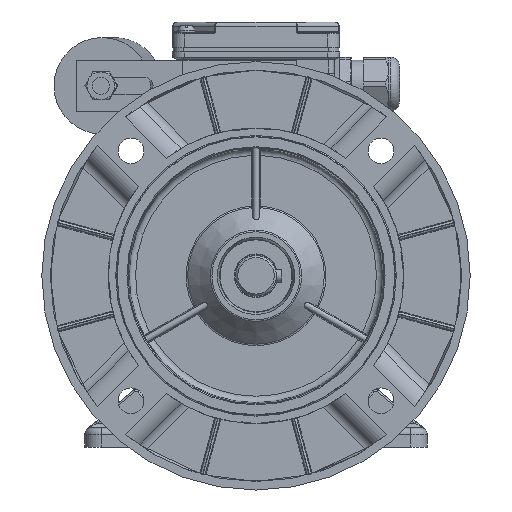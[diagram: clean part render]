
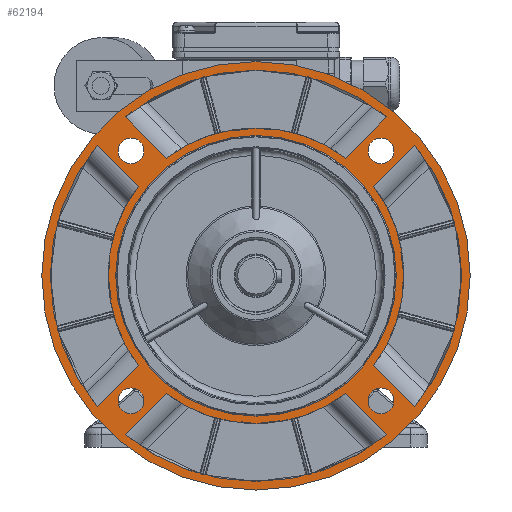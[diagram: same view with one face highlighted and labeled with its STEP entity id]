
A CAD part, left-side view. The second image highlights one B-rep face of the part: STEP entity #62194.
In plain terms, the highlighted planar face has unit normal (-1, 0, 0).
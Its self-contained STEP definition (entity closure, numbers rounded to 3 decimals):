
#3704=LINE('',#88575,#7327);
#3705=LINE('',#88586,#7328);
#3706=LINE('',#88609,#7329);
#3707=LINE('',#88620,#7330);
#3708=LINE('',#88646,#7331);
#3709=LINE('',#88657,#7332);
#3710=LINE('',#88680,#7333);
#3711=LINE('',#88691,#7334);
#7327=VECTOR('',#74705,1000.);
#7328=VECTOR('',#74712,1000.);
#7329=VECTOR('',#74719,1000.);
#7330=VECTOR('',#74726,1000.);
#7331=VECTOR('',#74737,1000.);
#7332=VECTOR('',#74744,1000.);
#7333=VECTOR('',#74751,1000.);
#7334=VECTOR('',#74758,1000.);
#16217=ORIENTED_EDGE('',*,*,#26801,.T.);
#16218=ORIENTED_EDGE('',*,*,#26799,.T.);
#16219=ORIENTED_EDGE('',*,*,#26798,.T.);
#16220=ORIENTED_EDGE('',*,*,#26795,.T.);
#16221=ORIENTED_EDGE('',*,*,#26793,.T.);
#16222=ORIENTED_EDGE('',*,*,#26791,.T.);
#16223=ORIENTED_EDGE('',*,*,#26790,.T.);
#16224=ORIENTED_EDGE('',*,*,#26787,.T.);
#16225=ORIENTED_EDGE('',*,*,#26806,.F.);
#16226=ORIENTED_EDGE('',*,*,#26807,.F.);
#16227=ORIENTED_EDGE('',*,*,#26808,.F.);
#16228=ORIENTED_EDGE('',*,*,#26809,.F.);
#16229=ORIENTED_EDGE('',*,*,#26785,.T.);
#16230=ORIENTED_EDGE('',*,*,#26810,.T.);
#16231=ORIENTED_EDGE('',*,*,#26784,.T.);
#16232=ORIENTED_EDGE('',*,*,#26782,.T.);
#16233=ORIENTED_EDGE('',*,*,#26781,.T.);
#16234=ORIENTED_EDGE('',*,*,#26778,.T.);
#16235=ORIENTED_EDGE('',*,*,#26776,.T.);
#16236=ORIENTED_EDGE('',*,*,#26774,.T.);
#16237=ORIENTED_EDGE('',*,*,#26773,.T.);
#16238=ORIENTED_EDGE('',*,*,#26770,.T.);
#26770=EDGE_CURVE('',#32605,#32604,#35977,.T.);
#26773=EDGE_CURVE('',#32606,#32605,#3704,.T.);
#26774=EDGE_CURVE('',#32607,#32606,#35978,.T.);
#26776=EDGE_CURVE('',#32604,#32607,#3705,.T.);
#26778=EDGE_CURVE('',#32609,#32608,#35979,.T.);
#26781=EDGE_CURVE('',#32610,#32609,#3706,.T.);
#26782=EDGE_CURVE('',#32611,#32610,#35980,.T.);
#26784=EDGE_CURVE('',#32608,#32611,#3707,.T.);
#26785=EDGE_CURVE('',#32612,#32612,#35981,.F.);
#26787=EDGE_CURVE('',#32614,#32613,#35982,.T.);
#26790=EDGE_CURVE('',#32615,#32614,#3708,.T.);
#26791=EDGE_CURVE('',#32616,#32615,#35983,.T.);
#26793=EDGE_CURVE('',#32613,#32616,#3709,.T.);
#26795=EDGE_CURVE('',#32618,#32617,#35984,.T.);
#26798=EDGE_CURVE('',#32619,#32618,#3710,.T.);
#26799=EDGE_CURVE('',#32620,#32619,#35985,.T.);
#26801=EDGE_CURVE('',#32617,#32620,#3711,.T.);
#26806=EDGE_CURVE('',#32625,#32625,#35986,.T.);
#26807=EDGE_CURVE('',#32626,#32626,#35987,.T.);
#26808=EDGE_CURVE('',#32627,#32627,#35988,.T.);
#26809=EDGE_CURVE('',#32628,#32628,#35989,.T.);
#26810=EDGE_CURVE('',#32629,#32629,#35990,.T.);
#32604=VERTEX_POINT('',#88559);
#32605=VERTEX_POINT('',#88561);
#32606=VERTEX_POINT('',#88574);
#32607=VERTEX_POINT('',#88578);
#32608=VERTEX_POINT('',#88593);
#32609=VERTEX_POINT('',#88595);
#32610=VERTEX_POINT('',#88608);
#32611=VERTEX_POINT('',#88612);
#32612=VERTEX_POINT('',#88623);
#32613=VERTEX_POINT('',#88630);
#32614=VERTEX_POINT('',#88632);
#32615=VERTEX_POINT('',#88645);
#32616=VERTEX_POINT('',#88649);
#32617=VERTEX_POINT('',#88664);
#32618=VERTEX_POINT('',#88666);
#32619=VERTEX_POINT('',#88679);
#32620=VERTEX_POINT('',#88683);
#32625=VERTEX_POINT('',#88703);
#32626=VERTEX_POINT('',#88705);
#32627=VERTEX_POINT('',#88707);
#32628=VERTEX_POINT('',#88709);
#32629=VERTEX_POINT('',#88711);
#35977=CIRCLE('',#65806,96.);
#35978=CIRCLE('',#65809,69.);
#35979=CIRCLE('',#65812,96.);
#35980=CIRCLE('',#65815,69.);
#35981=CIRCLE('',#65818,65.5);
#35982=CIRCLE('',#65820,96.);
#35983=CIRCLE('',#65823,69.);
#35984=CIRCLE('',#65826,96.);
#35985=CIRCLE('',#65829,69.);
#35986=CIRCLE('',#65833,6.);
#35987=CIRCLE('',#65834,6.);
#35988=CIRCLE('',#65835,6.);
#35989=CIRCLE('',#65836,6.);
#35990=CIRCLE('',#65837,100.);
#38365=EDGE_LOOP('',(#16217,#16218,#16219,#16220));
#38366=EDGE_LOOP('',(#16221,#16222,#16223,#16224));
#38367=EDGE_LOOP('',(#16225));
#38368=EDGE_LOOP('',(#16226));
#38369=EDGE_LOOP('',(#16227));
#38370=EDGE_LOOP('',(#16228));
#38371=EDGE_LOOP('',(#16229));
#38372=EDGE_LOOP('',(#16230));
#38373=EDGE_LOOP('',(#16231,#16232,#16233,#16234));
#38374=EDGE_LOOP('',(#16235,#16236,#16237,#16238));
#41473=FACE_BOUND('',#38365,.T.);
#41474=FACE_BOUND('',#38366,.T.);
#41475=FACE_BOUND('',#38367,.T.);
#41476=FACE_BOUND('',#38368,.T.);
#41477=FACE_BOUND('',#38369,.T.);
#41478=FACE_BOUND('',#38370,.T.);
#41479=FACE_BOUND('',#38371,.T.);
#41480=FACE_BOUND('',#38372,.T.);
#41481=FACE_BOUND('',#38373,.T.);
#41482=FACE_BOUND('',#38374,.T.);
#43820=PLANE('',#65832);
#62194=ADVANCED_FACE('',(#41473,#41474,#41475,#41476,#41477,#41478,#41479,
#41480,#41481,#41482),#43820,.T.);
#65806=AXIS2_PLACEMENT_3D('',#88560,#74701,#74702);
#65809=AXIS2_PLACEMENT_3D('',#88577,#74708,#74709);
#65812=AXIS2_PLACEMENT_3D('',#88594,#74715,#74716);
#65815=AXIS2_PLACEMENT_3D('',#88611,#74722,#74723);
#65818=AXIS2_PLACEMENT_3D('',#88622,#74729,#74730);
#65820=AXIS2_PLACEMENT_3D('',#88631,#74733,#74734);
#65823=AXIS2_PLACEMENT_3D('',#88648,#74740,#74741);
#65826=AXIS2_PLACEMENT_3D('',#88665,#74747,#74748);
#65829=AXIS2_PLACEMENT_3D('',#88682,#74754,#74755);
#65832=AXIS2_PLACEMENT_3D('',#88701,#74765,#74766);
#65833=AXIS2_PLACEMENT_3D('',#88702,#74767,#74768);
#65834=AXIS2_PLACEMENT_3D('',#88704,#74769,#74770);
#65835=AXIS2_PLACEMENT_3D('',#88706,#74771,#74772);
#65836=AXIS2_PLACEMENT_3D('',#88708,#74773,#74774);
#65837=AXIS2_PLACEMENT_3D('',#88710,#74775,#74776);
#74701=DIRECTION('',(1.,0.,0.));
#74702=DIRECTION('',(0.,0.,-1.));
#74705=DIRECTION('',(0.,0.707,0.707));
#74708=DIRECTION('',(-1.,0.,0.));
#74709=DIRECTION('',(0.,0.,-1.));
#74712=DIRECTION('',(0.,0.707,-0.707));
#74715=DIRECTION('',(1.,0.,0.));
#74716=DIRECTION('',(0.,0.,1.));
#74719=DIRECTION('',(0.,-0.707,-0.707));
#74722=DIRECTION('',(-1.,0.,0.));
#74723=DIRECTION('',(0.,0.,1.));
#74726=DIRECTION('',(0.,-0.707,0.707));
#74729=DIRECTION('',(-1.,0.,0.));
#74730=DIRECTION('',(0.,0.,-1.));
#74733=DIRECTION('',(1.,0.,0.));
#74734=DIRECTION('',(0.,1.,0.));
#74737=DIRECTION('',(0.,-0.707,0.707));
#74740=DIRECTION('',(-1.,0.,0.));
#74741=DIRECTION('',(0.,1.,0.));
#74744=DIRECTION('',(0.,0.707,0.707));
#74747=DIRECTION('',(1.,0.,0.));
#74748=DIRECTION('',(0.,-1.,0.));
#74751=DIRECTION('',(0.,0.707,-0.707));
#74754=DIRECTION('',(-1.,0.,0.));
#74755=DIRECTION('',(0.,-1.,0.));
#74758=DIRECTION('',(0.,-0.707,-0.707));
#74765=DIRECTION('',(-1.,0.,0.));
#74766=DIRECTION('',(0.,0.,-1.));
#74767=DIRECTION('',(-1.,0.,0.));
#74768=DIRECTION('',(0.,-1.,0.));
#74769=DIRECTION('',(-1.,0.,0.));
#74770=DIRECTION('',(0.,-1.,0.));
#74771=DIRECTION('',(-1.,0.,0.));
#74772=DIRECTION('',(0.,-1.,0.));
#74773=DIRECTION('',(-1.,0.,0.));
#74774=DIRECTION('',(0.,-1.,0.));
#74775=DIRECTION('',(-1.,0.,0.));
#74776=DIRECTION('',(0.,0.,-1.));
#88559=CARTESIAN_POINT('',(-44.3,-60.96,74.161));
#88560=CARTESIAN_POINT('',(-44.3,0.,0.));
#88561=CARTESIAN_POINT('',(-44.3,60.96,74.161));
#88574=CARTESIAN_POINT('',(-44.3,41.741,54.943));
#88575=CARTESIAN_POINT('',(-44.3,60.009,73.211));
#88577=CARTESIAN_POINT('',(-44.3,0.,0.));
#88578=CARTESIAN_POINT('',(-44.3,-41.741,54.943));
#88586=CARTESIAN_POINT('',(-44.3,-40.403,53.605));
#88593=CARTESIAN_POINT('',(-44.3,60.96,-74.161));
#88594=CARTESIAN_POINT('',(-44.3,0.,0.));
#88595=CARTESIAN_POINT('',(-44.3,-60.96,-74.161));
#88608=CARTESIAN_POINT('',(-44.3,-41.741,-54.943));
#88609=CARTESIAN_POINT('',(-44.3,-60.009,-73.211));
#88611=CARTESIAN_POINT('',(-44.3,0.,0.));
#88612=CARTESIAN_POINT('',(-44.3,41.741,-54.943));
#88620=CARTESIAN_POINT('',(-44.3,40.403,-53.605));
#88622=CARTESIAN_POINT('',(-44.3,0.,0.));
#88623=CARTESIAN_POINT('',(-44.3,0.,-65.5));
#88630=CARTESIAN_POINT('',(-44.3,-74.161,-60.96));
#88631=CARTESIAN_POINT('',(-44.3,0.,0.));
#88632=CARTESIAN_POINT('',(-44.3,-74.161,60.96));
#88645=CARTESIAN_POINT('',(-44.3,-54.943,41.741));
#88646=CARTESIAN_POINT('',(-44.3,-73.211,60.009));
#88648=CARTESIAN_POINT('',(-44.3,0.,0.));
#88649=CARTESIAN_POINT('',(-44.3,-54.943,-41.741));
#88657=CARTESIAN_POINT('',(-44.3,-53.605,-40.403));
#88664=CARTESIAN_POINT('',(-44.3,74.161,60.96));
#88665=CARTESIAN_POINT('',(-44.3,0.,0.));
#88666=CARTESIAN_POINT('',(-44.3,74.161,-60.96));
#88679=CARTESIAN_POINT('',(-44.3,54.943,-41.741));
#88680=CARTESIAN_POINT('',(-44.3,73.211,-60.009));
#88682=CARTESIAN_POINT('',(-44.3,0.,0.));
#88683=CARTESIAN_POINT('',(-44.3,54.943,41.741));
#88691=CARTESIAN_POINT('',(-44.3,53.605,40.403));
#88701=CARTESIAN_POINT('',(-44.3,0.,-65.));
#88702=CARTESIAN_POINT('',(-44.3,58.336,-58.336));
#88703=CARTESIAN_POINT('',(-44.3,52.336,-58.336));
#88704=CARTESIAN_POINT('',(-44.3,-58.336,-58.336));
#88705=CARTESIAN_POINT('',(-44.3,-64.336,-58.336));
#88706=CARTESIAN_POINT('',(-44.3,-58.336,58.336));
#88707=CARTESIAN_POINT('',(-44.3,-64.336,58.336));
#88708=CARTESIAN_POINT('',(-44.3,58.336,58.336));
#88709=CARTESIAN_POINT('',(-44.3,52.336,58.336));
#88710=CARTESIAN_POINT('',(-44.3,0.,0.));
#88711=CARTESIAN_POINT('',(-44.3,0.,-100.));
